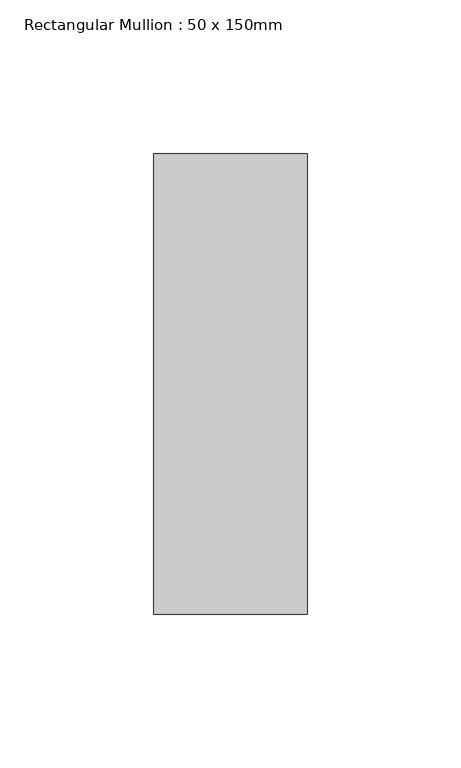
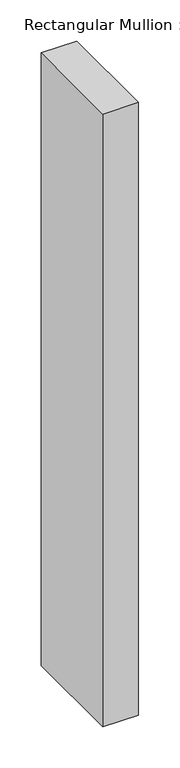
"""IFC4 building model written with IfcOpenShell, lengths in millimetres: member geometry, Rectangular Mullion : 50 x 150mm."""

from ifc_helpers import new_model, si_unit, frame, origin, place, context, project, spatial, polyline, outline, extrude, source, transform, mapped, element, save


def rectangular_mullion_50_x_150mm_5088cc46(model_context):
    return source(origin(), model_context, "Body", "SweptSolid", [
        extrude(outline(polyline([(0.0, 75.0), (0.0, -75.0), (-50.0, -75.0), (-50.0, 75.0), (0.0, 75.0)])), frame((0.0, 0.0, -909.5604964), z_axis=(0.0, 0.0, 1.0), x_axis=(1.0, 0.0, 0.0)), (0.0, 0.0, 1.0), 909.5604964),
    ])


if __name__ == "__main__":
    model = new_model("IFC4")
    model_context = context("Model", 3, world=origin())
    ifc_project = project(units=[si_unit("LENGTHUNIT", "METRE", prefix="MILLI")], contexts=[model_context])
    site = spatial("IfcSite", under=ifc_project)
    building = spatial("IfcBuilding", under=site)
    placement = place(None, origin())
    rectangular_mullion_50_x_150mm_shape = rectangular_mullion_50_x_150mm_5088cc46(model_context)
    element("IfcMember", 1, ObjectType="Rectangular Mullion : 50 x 150mm", at=placement, inside=building, context=model_context, shape_type="MappedRepresentation", body=[
        mapped(rectangular_mullion_50_x_150mm_shape, transform((0.0, 0.0, 0.0), x_axis=(1.0, 0.0, 0.0), y_axis=(0.0, 1.0, 0.0), z_axis=(0.0, 0.0, 1.0))),
    ])
    save(model, "model.ifc")
